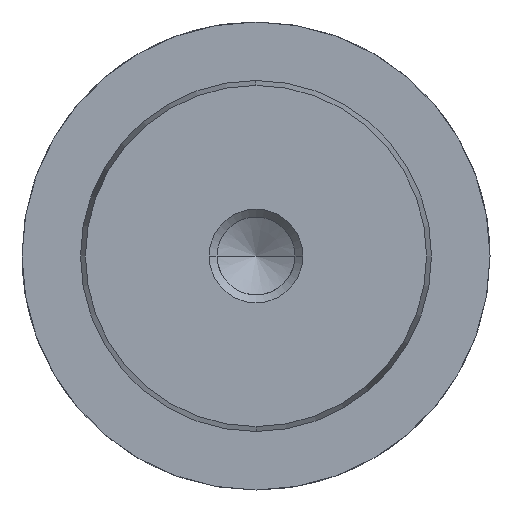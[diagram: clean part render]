
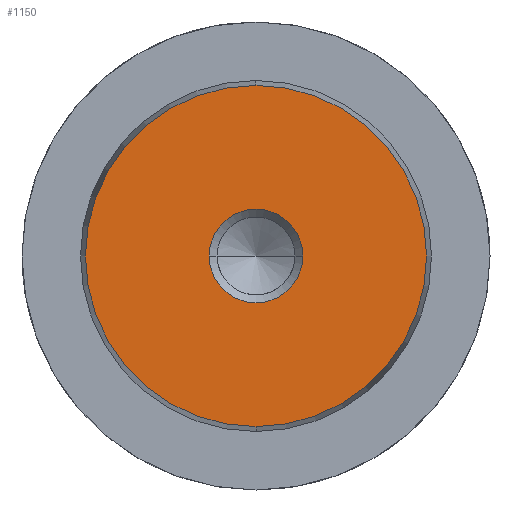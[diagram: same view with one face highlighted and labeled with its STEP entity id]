
A CAD part, left-side view. The second image highlights one B-rep face of the part: STEP entity #1150.
In plain terms, the highlighted planar face has unit normal (-1, 0, 0).
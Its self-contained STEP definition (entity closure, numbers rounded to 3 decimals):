
#1064=CARTESIAN_POINT('Vertex',(0.,0.,-14.578)) ;
#1067=CARTESIAN_POINT('Axis2P3D Location',(0.,0.,0.)) ;
#1071=CARTESIAN_POINT('Vertex',(0.,14.578,0.)) ;
#1074=CARTESIAN_POINT('Axis2P3D Location',(0.,0.,0.)) ;
#1078=CARTESIAN_POINT('Vertex',(0.,0.,14.578)) ;
#1100=CARTESIAN_POINT('Axis2P3D Location',(0.,0.,0.)) ;
#1104=CARTESIAN_POINT('Vertex',(0.,-14.578,0.)) ;
#1107=CARTESIAN_POINT('Axis2P3D Location',(0.,0.,0.)) ;
#1121=CARTESIAN_POINT('Axis2P3D Location',(0.,0.,0.)) ;
#1132=CARTESIAN_POINT('Axis2P3D Location',(0.,0.,0.)) ;
#1136=CARTESIAN_POINT('Vertex',(0.,4.,0.)) ;
#1138=CARTESIAN_POINT('Vertex',(0.,-4.,0.)) ;
#1141=CARTESIAN_POINT('Axis2P3D Location',(0.,0.,0.)) ;
#1068=DIRECTION('Axis2P3D Direction',(1.,0.,-0.)) ;
#1075=DIRECTION('Axis2P3D Direction',(1.,0.,-0.)) ;
#1101=DIRECTION('Axis2P3D Direction',(1.,0.,-0.)) ;
#1108=DIRECTION('Axis2P3D Direction',(1.,0.,-0.)) ;
#1122=DIRECTION('Axis2P3D Direction',(1.,0.,-0.)) ;
#1123=DIRECTION('Axis2P3D XDirection',(-0.,0.,-1.)) ;
#1133=DIRECTION('Axis2P3D Direction',(1.,0.,-0.)) ;
#1142=DIRECTION('Axis2P3D Direction',(1.,0.,-0.)) ;
#1069=AXIS2_PLACEMENT_3D('Circle Axis2P3D',#1067,#1068,$) ;
#1076=AXIS2_PLACEMENT_3D('Circle Axis2P3D',#1074,#1075,$) ;
#1102=AXIS2_PLACEMENT_3D('Circle Axis2P3D',#1100,#1101,$) ;
#1109=AXIS2_PLACEMENT_3D('Circle Axis2P3D',#1107,#1108,$) ;
#1124=AXIS2_PLACEMENT_3D('Plane Axis2P3D',#1121,#1122,#1123) ;
#1134=AXIS2_PLACEMENT_3D('Circle Axis2P3D',#1132,#1133,$) ;
#1143=AXIS2_PLACEMENT_3D('Circle Axis2P3D',#1141,#1142,$) ;
#1127=ORIENTED_EDGE('',*,*,#1073,.F.) ;
#1128=ORIENTED_EDGE('',*,*,#1111,.F.) ;
#1129=ORIENTED_EDGE('',*,*,#1106,.F.) ;
#1130=ORIENTED_EDGE('',*,*,#1080,.F.) ;
#1147=ORIENTED_EDGE('',*,*,#1140,.T.) ;
#1148=ORIENTED_EDGE('',*,*,#1145,.T.) ;
#1149=FACE_BOUND('',#1146,.T.) ;
#1150=ADVANCED_FACE('718-30x200',(#1131,#1149),#1125,.F.) ;
#1070=CIRCLE('generated circle',#1069,14.578) ;
#1077=CIRCLE('generated circle',#1076,14.578) ;
#1103=CIRCLE('generated circle',#1102,14.578) ;
#1110=CIRCLE('generated circle',#1109,14.578) ;
#1135=CIRCLE('generated circle',#1134,4.) ;
#1144=CIRCLE('generated circle',#1143,4.) ;
#1073=EDGE_CURVE('',#1065,#1072,#1070,.T.) ;
#1080=EDGE_CURVE('',#1072,#1079,#1077,.T.) ;
#1106=EDGE_CURVE('',#1079,#1105,#1103,.T.) ;
#1111=EDGE_CURVE('',#1105,#1065,#1110,.T.) ;
#1140=EDGE_CURVE('',#1137,#1139,#1135,.T.) ;
#1145=EDGE_CURVE('',#1139,#1137,#1144,.T.) ;
#1126=EDGE_LOOP('',(#1127,#1128,#1129,#1130)) ;
#1146=EDGE_LOOP('',(#1147,#1148)) ;
#1131=FACE_OUTER_BOUND('',#1126,.T.) ;
#1125=PLANE('Plane',#1124) ;
#1065=VERTEX_POINT('',#1064) ;
#1072=VERTEX_POINT('',#1071) ;
#1079=VERTEX_POINT('',#1078) ;
#1105=VERTEX_POINT('',#1104) ;
#1137=VERTEX_POINT('',#1136) ;
#1139=VERTEX_POINT('',#1138) ;
